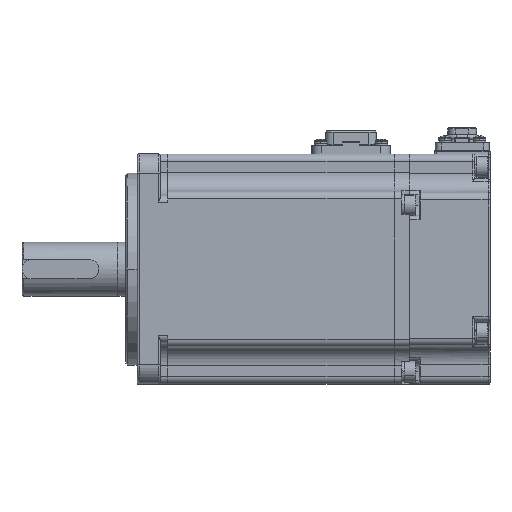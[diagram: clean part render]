
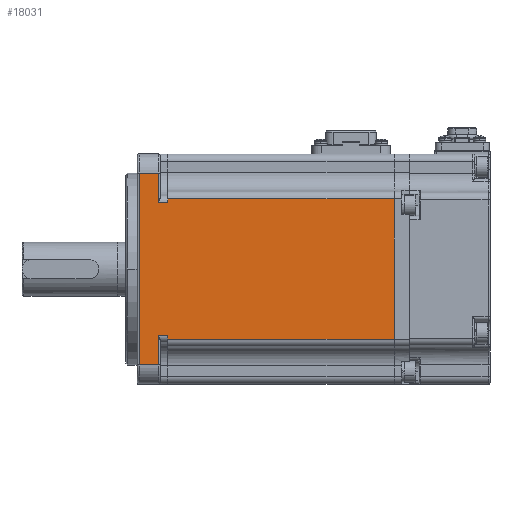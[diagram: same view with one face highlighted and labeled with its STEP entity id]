
A CAD part, top view. The second image highlights one B-rep face of the part: STEP entity #18031.
In plain terms, the highlighted planar face has unit normal (0, 0, 1).
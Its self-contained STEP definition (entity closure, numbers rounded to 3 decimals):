
#2098 = CARTESIAN_POINT ( 'NONE',  ( 8.5, 30., 30. ) ) ;
#2491 = VERTEX_POINT ( 'NONE', #20165 ) ;
#2809 = LINE ( 'NONE', #12901, #58214 ) ;
#4062 = EDGE_CURVE ( 'NONE', #52813, #13001, #8600, .T. ) ;
#4421 = EDGE_CURVE ( 'NONE', #41178, #50673, #28290, .T. ) ;
#4620 = PLANE ( 'NONE',  #52898 ) ;
#5713 = LINE ( 'NONE', #52139, #35269 ) ;
#5787 = VERTEX_POINT ( 'NONE', #9539 ) ;
#6529 = CARTESIAN_POINT ( 'NONE',  ( 11., -17.25, 30. ) ) ;
#7385 = VERTEX_POINT ( 'NONE', #35045 ) ;
#7399 = VECTOR ( 'NONE', #23562, 1000. ) ;
#7537 = ORIENTED_EDGE ( 'NONE', *, *, #26622, .T. ) ;
#8600 = LINE ( 'NONE', #58763, #17089 ) ;
#9539 = CARTESIAN_POINT ( 'NONE',  ( 11., 17.25, 30. ) ) ;
#9698 = ORIENTED_EDGE ( 'NONE', *, *, #22989, .T. ) ;
#9728 = DIRECTION ( 'NONE',  ( 0., -1., 0. ) ) ;
#10342 = DIRECTION ( 'NONE',  ( 0., -1., 0. ) ) ;
#11998 = VECTOR ( 'NONE', #27709, 1000. ) ;
#12260 = LINE ( 'NONE', #52631, #11998 ) ;
#12901 = CARTESIAN_POINT ( 'NONE',  ( 11., -17.25, 30. ) ) ;
#13001 = VERTEX_POINT ( 'NONE', #62392 ) ;
#16038 = VECTOR ( 'NONE', #29332, 1000. ) ;
#17089 = VECTOR ( 'NONE', #33181, 1000. ) ;
#18031 = ADVANCED_FACE ( 'NONE', ( #31198 ), #4620, .T. ) ;
#18899 = CARTESIAN_POINT ( 'NONE',  ( 0., 25., 30. ) ) ;
#19331 = ORIENTED_EDGE ( 'NONE', *, *, #64319, .T. ) ;
#20165 = CARTESIAN_POINT ( 'NONE',  ( 11., -17.25, 30. ) ) ;
#20302 = CARTESIAN_POINT ( 'NONE',  ( 11., -18.25, 30. ) ) ;
#20987 = VERTEX_POINT ( 'NONE', #31901 ) ;
#21172 = DIRECTION ( 'NONE',  ( -1., 0., 0. ) ) ;
#21988 = EDGE_CURVE ( 'NONE', #50673, #45530, #59278, .T. ) ;
#22989 = EDGE_CURVE ( 'NONE', #59864, #20987, #65004, .T. ) ;
#23562 = DIRECTION ( 'NONE',  ( 1., 0., 0. ) ) ;
#24101 = CARTESIAN_POINT ( 'NONE',  ( 8.5, -17.25, 30. ) ) ;
#25542 = CARTESIAN_POINT ( 'NONE',  ( 70., 30., 30. ) ) ;
#26369 = LINE ( 'NONE', #31080, #38959 ) ;
#26622 = EDGE_CURVE ( 'NONE', #13001, #5787, #31488, .T. ) ;
#27709 = DIRECTION ( 'NONE',  ( 1., 0., 0. ) ) ;
#28227 = EDGE_CURVE ( 'NONE', #20987, #41178, #26369, .T. ) ;
#28290 = LINE ( 'NONE', #59904, #7399 ) ;
#28933 = LINE ( 'NONE', #37728, #29508 ) ;
#29332 = DIRECTION ( 'NONE',  ( -1., 0., 0. ) ) ;
#29435 = CARTESIAN_POINT ( 'NONE',  ( 8.5, 17.25, 30. ) ) ;
#29508 = VECTOR ( 'NONE', #58261, 1000. ) ;
#31080 = CARTESIAN_POINT ( 'NONE',  ( 3.5, -25., 30. ) ) ;
#31198 = FACE_OUTER_BOUND ( 'NONE', #42630, .T. ) ;
#31488 = LINE ( 'NONE', #62092, #59187 ) ;
#31670 = ORIENTED_EDGE ( 'NONE', *, *, #28227, .T. ) ;
#31814 = DIRECTION ( 'NONE',  ( 0., -1., 0. ) ) ;
#31901 = CARTESIAN_POINT ( 'NONE',  ( 3.5, 25., 30. ) ) ;
#31922 = EDGE_CURVE ( 'NONE', #52813, #7385, #59860, .T. ) ;
#33181 = DIRECTION ( 'NONE',  ( -1., 0., 0. ) ) ;
#33860 = ORIENTED_EDGE ( 'NONE', *, *, #4062, .T. ) ;
#33977 = VERTEX_POINT ( 'NONE', #29435 ) ;
#34819 = ORIENTED_EDGE ( 'NONE', *, *, #43430, .T. ) ;
#35045 = CARTESIAN_POINT ( 'NONE',  ( 70., -18.25, 30. ) ) ;
#35269 = VECTOR ( 'NONE', #21172, 1000. ) ;
#35572 = CARTESIAN_POINT ( 'NONE',  ( 0., 30., 30. ) ) ;
#35940 = DIRECTION ( 'NONE',  ( -1., 0., 0. ) ) ;
#36251 = ORIENTED_EDGE ( 'NONE', *, *, #4421, .T. ) ;
#37454 = VERTEX_POINT ( 'NONE', #20302 ) ;
#37728 = CARTESIAN_POINT ( 'NONE',  ( 8.5, 30., 30. ) ) ;
#38104 = DIRECTION ( 'NONE',  ( 0., 1., 0. ) ) ;
#38959 = VECTOR ( 'NONE', #47522, 1000. ) ;
#39142 = CARTESIAN_POINT ( 'NONE',  ( 8.5, 25., 30. ) ) ;
#41178 = VERTEX_POINT ( 'NONE', #65951 ) ;
#42327 = VECTOR ( 'NONE', #9728, 1000. ) ;
#42630 = EDGE_LOOP ( 'NONE', ( #36251, #61799, #63007, #50036, #34819, #46415, #33860, #7537, #49835, #19331, #9698, #31670 ) ) ;
#43430 = EDGE_CURVE ( 'NONE', #37454, #7385, #12260, .T. ) ;
#43458 = EDGE_CURVE ( 'NONE', #2491, #37454, #2809, .T. ) ;
#45530 = VERTEX_POINT ( 'NONE', #24101 ) ;
#46415 = ORIENTED_EDGE ( 'NONE', *, *, #31922, .F. ) ;
#47522 = DIRECTION ( 'NONE',  ( 0., -1., 0. ) ) ;
#49835 = ORIENTED_EDGE ( 'NONE', *, *, #51666, .T. ) ;
#49889 = CARTESIAN_POINT ( 'NONE',  ( 70., 18.25, 30. ) ) ;
#49963 = VECTOR ( 'NONE', #35940, 1000. ) ;
#50036 = ORIENTED_EDGE ( 'NONE', *, *, #43458, .T. ) ;
#50673 = VERTEX_POINT ( 'NONE', #57840 ) ;
#51666 = EDGE_CURVE ( 'NONE', #5787, #33977, #5713, .T. ) ;
#52139 = CARTESIAN_POINT ( 'NONE',  ( 11., 17.25, 30. ) ) ;
#52631 = CARTESIAN_POINT ( 'NONE',  ( 70., -18.25, 30. ) ) ;
#52813 = VERTEX_POINT ( 'NONE', #49889 ) ;
#52898 = AXIS2_PLACEMENT_3D ( 'NONE', #35572, #59880, #10342 ) ;
#57840 = CARTESIAN_POINT ( 'NONE',  ( 8.5, -25., 30. ) ) ;
#58214 = VECTOR ( 'NONE', #58684, 1000. ) ;
#58261 = DIRECTION ( 'NONE',  ( 0., 1., 0. ) ) ;
#58684 = DIRECTION ( 'NONE',  ( 0., -1., 0. ) ) ;
#58763 = CARTESIAN_POINT ( 'NONE',  ( 9., 18.25, 30. ) ) ;
#59187 = VECTOR ( 'NONE', #31814, 1000. ) ;
#59278 = LINE ( 'NONE', #2098, #65475 ) ;
#59860 = LINE ( 'NONE', #25542, #42327 ) ;
#59864 = VERTEX_POINT ( 'NONE', #39142 ) ;
#59880 = DIRECTION ( 'NONE',  ( 0., 0., 1. ) ) ;
#59904 = CARTESIAN_POINT ( 'NONE',  ( 0., -25., 30. ) ) ;
#61799 = ORIENTED_EDGE ( 'NONE', *, *, #21988, .T. ) ;
#62092 = CARTESIAN_POINT ( 'NONE',  ( 11., 17.25, 30. ) ) ;
#62392 = CARTESIAN_POINT ( 'NONE',  ( 11., 18.25, 30. ) ) ;
#63007 = ORIENTED_EDGE ( 'NONE', *, *, #64867, .F. ) ;
#64319 = EDGE_CURVE ( 'NONE', #33977, #59864, #28933, .T. ) ;
#64867 = EDGE_CURVE ( 'NONE', #2491, #45530, #66541, .T. ) ;
#65004 = LINE ( 'NONE', #18899, #16038 ) ;
#65475 = VECTOR ( 'NONE', #38104, 1000. ) ;
#65951 = CARTESIAN_POINT ( 'NONE',  ( 3.5, -25., 30. ) ) ;
#66541 = LINE ( 'NONE', #6529, #49963 ) ;
